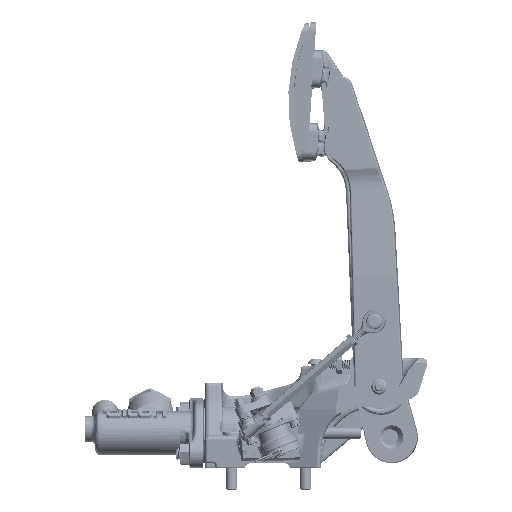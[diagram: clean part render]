
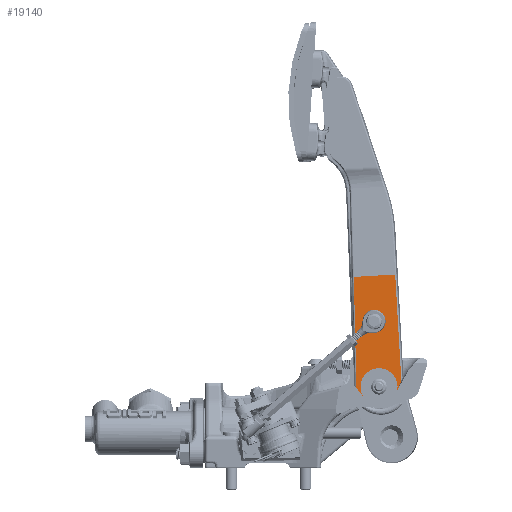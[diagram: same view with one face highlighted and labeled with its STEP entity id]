
A CAD part, left-side view. The second image highlights one B-rep face of the part: STEP entity #19140.
In plain terms, the highlighted planar face has unit normal (-1, 0, 0) as drawn and (1, 0, 0) by its records, which use the part's own axes.
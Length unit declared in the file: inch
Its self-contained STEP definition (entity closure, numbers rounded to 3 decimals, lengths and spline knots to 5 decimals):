
#19140 = ADVANCED_FACE( '', ( #38440 ), #38441, .T. );
#38440 = FACE_OUTER_BOUND( '', #108359, .T. );
#38441 = PLANE( '', #108360 );
#108359 = EDGE_LOOP( '', ( #146306, #146307, #146308, #146309, #146310, #146311, #146312 ) );
#108360 = AXIS2_PLACEMENT_3D( '', #146313, #146314, #146315 );
#146306 = ORIENTED_EDGE( '', *, *, #157365, .F. );
#146307 = ORIENTED_EDGE( '', *, *, #160046, .T. );
#146308 = ORIENTED_EDGE( '', *, *, #166848, .T. );
#146309 = ORIENTED_EDGE( '', *, *, #154877, .T. );
#146310 = ORIENTED_EDGE( '', *, *, #151136, .F. );
#146311 = ORIENTED_EDGE( '', *, *, #166260, .F. );
#146312 = ORIENTED_EDGE( '', *, *, #157232, .T. );
#146313 = CARTESIAN_POINT( '', ( 10.952, 6.36479, 1.89928 ) );
#146314 = DIRECTION( '', ( 1., 0., 0. ) );
#146315 = DIRECTION( '', ( 0., 0.021, 1. ) );
#151136 = EDGE_CURVE( '', #171681, #171684, #171685, .T. );
#154877 = EDGE_CURVE( '', #177070, #171684, #178072, .T. );
#157232 = EDGE_CURVE( '', #181904, #181905, #181906, .F. );
#157365 = EDGE_CURVE( '', #182121, #181905, #182123, .T. );
#160046 = EDGE_CURVE( '', #182121, #171276, #186281, .T. );
#166260 = EDGE_CURVE( '', #181904, #171681, #195595, .T. );
#166848 = EDGE_CURVE( '', #171276, #177070, #196477, .T. );
#171276 = VERTEX_POINT( '', #208886 );
#171681 = VERTEX_POINT( '', #210677 );
#171684 = VERTEX_POINT( '', #210682 );
#171685 = ( BOUNDED_CURVE(  )B_SPLINE_CURVE( 3, ( #210685, #210686, #210687, #210688 ), .UNSPECIFIED., .F., .F. )B_SPLINE_CURVE_WITH_KNOTS( ( 4, 4 ), ( 0., 1. ), .UNSPECIFIED. )CURVE(  )GEOMETRIC_REPRESENTATION_ITEM(  )RATIONAL_B_SPLINE_CURVE( ( 1., 1., 1., 1. ) )REPRESENTATION_ITEM( '' ) );
#177070 = VERTEX_POINT( '', #231130 );
#178072 = LINE( '', #234517, #234518 );
#181904 = VERTEX_POINT( '', #247969 );
#181905 = VERTEX_POINT( '', #247970 );
#181906 = CIRCLE( '', #247971, 0.5005 );
#182121 = VERTEX_POINT( '', #248618 );
#182123 = LINE( '', #248620, #248621 );
#186281 = LINE( '', #263250, #263251 );
#195595 = LINE( '', #296667, #296668 );
#196477 = LINE( '', #299595, #299596 );
#208886 = CARTESIAN_POINT( '', ( 10.952, 6.43318, 5.18664 ) );
#210677 = CARTESIAN_POINT( '', ( 10.952, 5.14922, 2.21348 ) );
#210682 = CARTESIAN_POINT( '', ( 10.952, 5.15004, 2.23402 ) );
#210685 = CARTESIAN_POINT( '', ( 10.952, 5.14924, 2.21348 ) );
#210686 = CARTESIAN_POINT( '', ( 10.952, 5.14939, 2.22033 ) );
#210687 = CARTESIAN_POINT( '', ( 10.952, 5.14966, 2.22718 ) );
#210688 = CARTESIAN_POINT( '', ( 10.952, 5.15004, 2.23402 ) );
#231130 = CARTESIAN_POINT( '', ( 10.952, 5.31595, 5.20989 ) );
#234517 = CARTESIAN_POINT( '', ( 10.952, 5.31699, 5.22774 ) );
#234518 = VECTOR( '', #307009, 39.37008 );
#247969 = CARTESIAN_POINT( '', ( 10.952, 5.3321, 1.94038 ) );
#247970 = CARTESIAN_POINT( '', ( 10.952, 6.21853, 1.99938 ) );
#247971 = AXIS2_PLACEMENT_3D( '', #308559, #308560, #308561 );
#248618 = CARTESIAN_POINT( '', ( 10.952, 6.37342, 2.31427 ) );
#248620 = CARTESIAN_POINT( '', ( 10.952, 6.20866, 1.97931 ) );
#248621 = VECTOR( '', #308659, 39.37008 );
#263250 = CARTESIAN_POINT( '', ( 10.952, 6.37306, 2.29703 ) );
#263251 = VECTOR( '', #310331, 39.37008 );
#296667 = CARTESIAN_POINT( '', ( 10.952, 5.08813, 2.3047 ) );
#296668 = VECTOR( '', #313719, 39.37008 );
#299595 = CARTESIAN_POINT( '', ( 10.952, 6.43319, 5.18664 ) );
#299596 = VECTOR( '', #313992, 39.37008 );
#307009 = DIRECTION( '', ( 0., -0.056, -0.998 ) );
#308559 = CARTESIAN_POINT( '', ( 10.952, 5.76, 2.2 ) );
#308560 = DIRECTION( '', ( 1., 0., 0. ) );
#308561 = DIRECTION( '', ( 0., 0., -1. ) );
#308659 = DIRECTION( '', ( 0., -0.441, -0.897 ) );
#310331 = DIRECTION( '', ( 0., 0.021, 1. ) );
#313719 = DIRECTION( '', ( 0., -0.556, 0.831 ) );
#313992 = DIRECTION( '', ( 0., -1., 0.021 ) );
